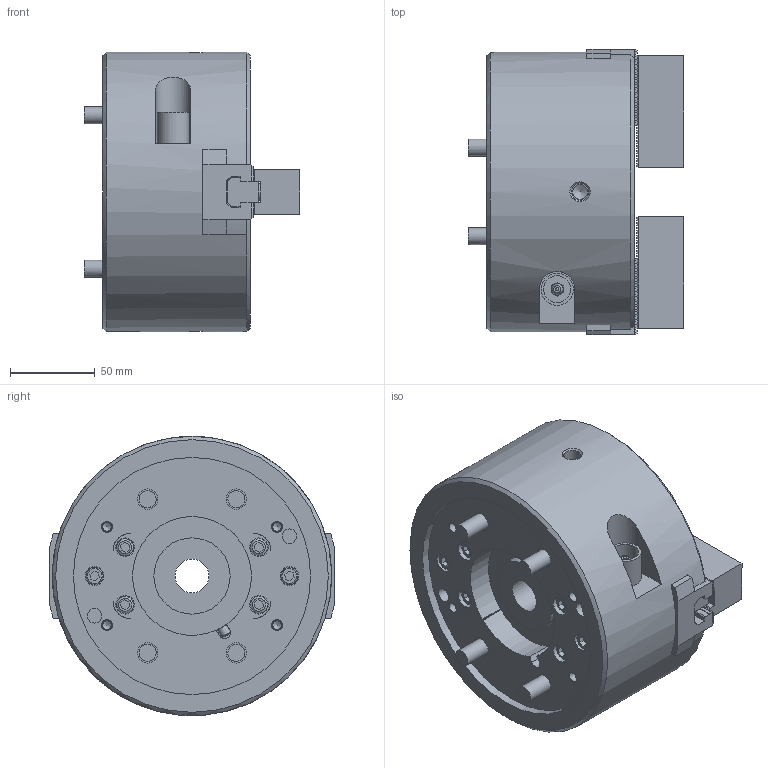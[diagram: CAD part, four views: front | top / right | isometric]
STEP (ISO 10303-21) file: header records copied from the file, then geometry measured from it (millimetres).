
FILE_DESCRIPTION (( 'STEP AP214' ), '1' );
FILE_NAME ('BLT206_UC.STEP', '2020-01-16T04:12:50', ( '' ), ( '' ), 'SwSTEP 2.0', 'SolidWorks 2017', '' );
FILE_SCHEMA (( 'AUTOMOTIVE_DESIGN' ));
Length unit declared in the file: millimetre
Products named in the file (14): 61P321203-3_SOFTJAW_蹬怮椔; B傾僫僣僉 M10亊250_~25; 61P447493-0_T_NUT; 61P321203-3_SOFTJAW; BLT206_UC; BLT206_Unity^BLT206_蹬怮椔; B傾僫僣僉 M10亊250_~25_棉太倌TI佱UA; BLT206_Unity^BLT206; 61P447493-0_T_NUT_蹬怮椔
Assembly tree (9 placements, depth 2):
  B傾僫僣僉 M10亊250_~25
  61P447493-0_T_NUT
  B傾僫僣僉 M10亊250_~25
  B傾僫僣僉 M10亊250_~25
  61P321203-3_SOFTJAW
Bounding box: 127.2 x 168.51 x 165 mm (x, y, z)
Volume: 1739842.8 mm3; surface area: 171261.9 mm2
Topology: 9 solids, 30 shells, 1733 faces, 4671 edges, 3078 vertices
Faces by surface type: plane 1514, cylinder 146, cone 62, torus 6, sphere 5
Full cylindrical faces by diameter (mm): 1.9 x2, 5 x4, 6 x9, 6.6 x4, 8.6 x2, 8.8 x2, 9 x4, 10 x24, 11 x10, 12 x4, 16 x10, 17 x8, 19 x2, 20 x1, 28 x1, 31 x1, 38.5 x1, 45 x1, 140 x1, 165 x1
Entity records: 42066 total; most frequent: CARTESIAN_POINT 8203, ORIENTED_EDGE 7022, DIRECTION 6551, EDGE_CURVE 3511, LINE 2891, VECTOR 2891, VERTEX_POINT 2370, AXIS2_PLACEMENT_3D 1830
